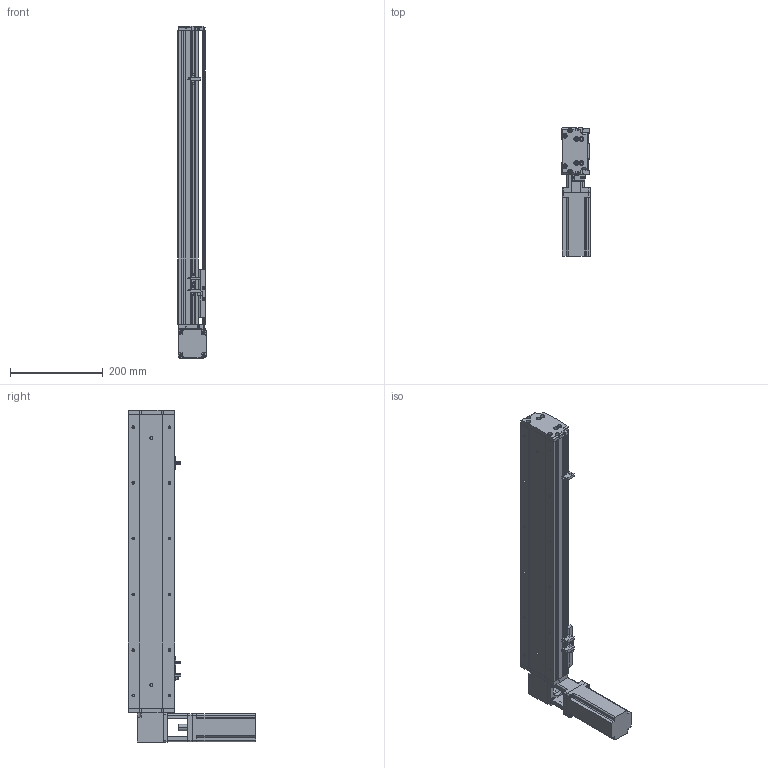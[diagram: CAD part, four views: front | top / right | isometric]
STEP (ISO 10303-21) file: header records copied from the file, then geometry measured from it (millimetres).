
FILE_DESCRIPTION (( 'STEP AP214' ), '1' );
FILE_NAME ('KSD100B-S450-MLT-CM.STEP', '2019-11-11T03:46:29', ( '微软用户' ), ( '微软中国' ), 'SwSTEP 2.0', 'SolidWorks 2014', '' );
FILE_SCHEMA (( 'AUTOMOTIVE_DESIGN' ));
Length unit declared in the file: millimetre
Products named in the file (12): 100宽安装板同步带带电机座400W,86; 100遵鎮湛假蚾啣1 ; 100宽防尘板450行程-同步带; U倰嫖萇EEㄜSX672; 覜茼え100遵圉猾敕; 台达ECMA－C20604AS伺服电机; 100宽马达安装板同步带右; 100宽同步带安装板半封闭; 100宽马达安装板同步带; 100遵傷啣肮祭湍; 100宽底板半封闭同步带450行程; KSD100B-S450-MLT-CM
Assembly tree (13 placements, depth 2):
  KSD100B-S450-MLT-CM
    100宽底板半封闭同步带450行程
    100遵傷啣肮祭湍
    100宽马达安装板同步带
    100宽同步带安装板半封闭
    100宽马达安装板同步带右
    台达ECMA－C20604AS伺服电机
    覜茼え100遵圉猾敕
    U倰嫖萇EEㄜSX672  x3
    100宽防尘板450行程-同步带
    100遵鎮湛假蚾啣1 
    100宽安装板同步带带电机座400W,86
Bounding box: 61 x 275 x 715 mm (x, y, z)
Volume: 1891984.9 mm3; surface area: 578291.8 mm2
Topology: 14 solids, 14 shells, 1312 faces, 3661 edges, 2347 vertices
Faces by surface type: cylinder 650, plane 559, cone 103
Entity records: 44633 total; most frequent: CARTESIAN_POINT 8352, DIRECTION 6325, ORIENTED_EDGE 6022, EDGE_CURVE 3011, AXIS2_PLACEMENT_3D 2314, VERTEX_POINT 1971, LINE 1697, VECTOR 1697
